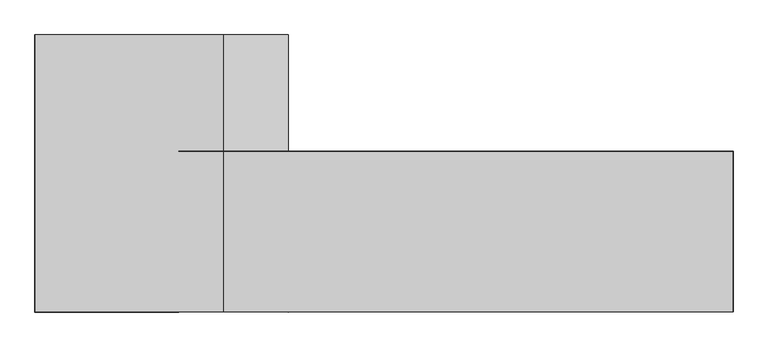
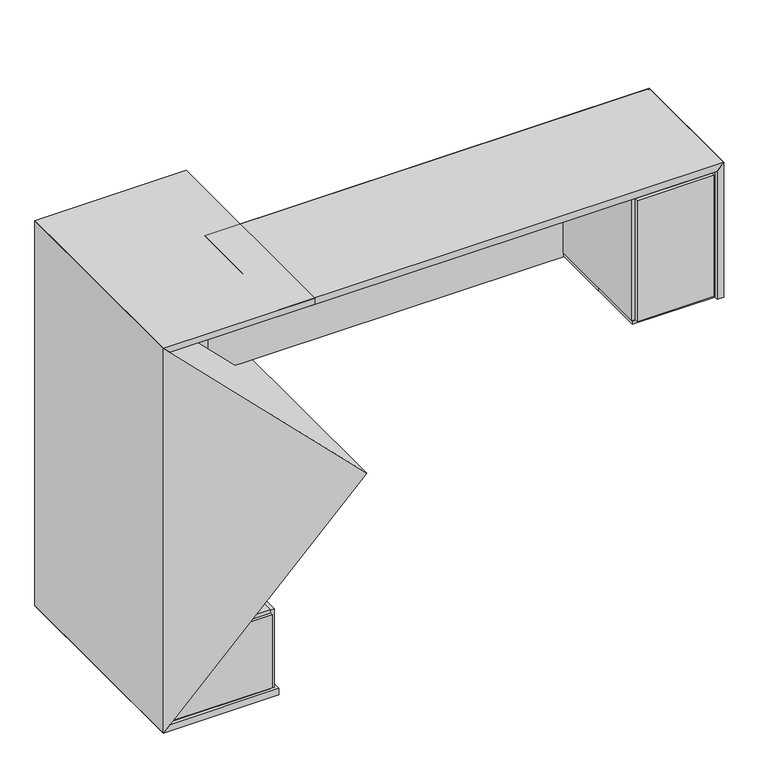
"""IFC4 building model written with IfcOpenShell, lengths in millimetres: proxy geometry, SALUTE^ADMIN 5A_100in DESK L SHAPED-PARTS SOLID."""

from ifc_helpers import new_model, si_unit, frame, origin, place, context, project, spatial, polyline, outline, extrude, faceted_brep, source, transform, mapped, element, save


def generic_models_883a1e68(model_context):
    return source(origin(), model_context, "Body", "SolidModel", [
        extrude(outline(polyline([(-34.925, 526.653125), (-34.925, 696.11875), (-15.875, 696.11875), (-15.875, 526.653125), (-34.925, 526.653125)])), frame((0.0, 0.0, -2245.51875), z_axis=(0.0, 0.0, 1.0), x_axis=(1.0, 0.0, 0.0)), (0.0, 0.0, 1.0), 471.4875),
        extrude(outline(polyline([(-622.3, 19.05), (-622.3, 698.5), (-38.1, 698.5), (-38.1, 19.05), (-622.3, 19.05)])), frame((0.0, 0.0, -2247.9), z_axis=(0.0, 0.0, 1.0), x_axis=(1.0, 0.0, 0.0)), (0.0, 0.0, 1.0), 19.05),
        extrude(outline(polyline([(-2286.0, -660.4), (-1123.95, 501.65), (38.1, -660.4), (-2286.0, -660.4)])), frame((0.0, 0.0, 0.0), z_axis=(0.0, 1.0, 0.0), x_axis=(0.0, 0.0, 1.0)), (0.0, 0.0, 1.0), 1270.0),
        extrude(outline(polyline([(-34.925, 354.80625), (-34.925, 524.271875), (-15.875, 524.271875), (-15.875, 354.80625), (-34.925, 354.80625)])), frame((0.0, 0.0, -2245.51875), z_axis=(0.0, 0.0, 1.0), x_axis=(1.0, 0.0, 0.0)), (0.0, 0.0, 1.0), 471.4875),
        extrude(outline(polyline([(2499.51875, 354.80625), (2028.03125, 354.80625), (2028.03125, 696.11875), (2499.51875, 696.11875), (2499.51875, 354.80625)])), frame((0.0, 0.0, -771.525), z_axis=(0.0, 0.0, 1.0), x_axis=(1.0, 0.0, 0.0)), (0.0, 0.0, 1.0), 19.05),
        faceted_brep([(2540.0, 736.6, -774.7), (2540.0, 736.6, 38.1), (2540.0, 0.0, 38.1), (2540.0, 0.0, -774.7), (2501.9, 698.5, 0.0), (2501.9, 0.0, 0.0), (2501.9, 698.5, -774.7), (2501.9, 0.0, -774.7)], [[[0, 1, 2, 3]], [[1, 4, 5, 2]], [[4, 6, 7, 5]], [[6, 0, 3, 7]], [[3, 2, 5, 7]], [[4, 1, 0, 6]]]),
        extrude(outline(polyline([(-622.3, 19.05), (-622.3, 698.5), (-38.1, 698.5), (-38.1, 19.05), (-622.3, 19.05)])), frame((0.0, 0.0, -1790.7), z_axis=(0.0, 0.0, 1.0), x_axis=(1.0, 0.0, 0.0)), (0.0, 0.0, 1.0), 19.05),
        extrude(outline(polyline([(-38.1, 38.1), (-38.1, 0.0), (-603.25, 0.0), (-603.25, 38.1), (-38.1, 38.1)])), frame((0.0, 0.0, -2228.85), z_axis=(0.0, 0.0, 1.0), x_axis=(1.0, 0.0, 0.0)), (0.0, 0.0, 1.0), 438.15),
        extrude(outline(polyline([(2482.85, 38.1), (2482.85, 0.0), (2044.7, 0.0), (2044.7, 38.1), (2482.85, 38.1)])), frame((0.0, 0.0, -749.3), z_axis=(0.0, 0.0, 1.0), x_axis=(1.0, 0.0, 0.0)), (0.0, 0.0, 1.0), 730.25),
        extrude(outline(polyline([(2482.85, 698.5), (2482.85, 19.05), (2044.7, 19.05), (2044.7, 698.5), (2482.85, 698.5)])), frame((0.0, 0.0, -19.05), z_axis=(0.0, 0.0, 1.0), x_axis=(1.0, 0.0, 0.0)), (0.0, 0.0, 1.0), 19.05),
        extrude(outline(polyline([(-34.925, 19.05), (-34.925, 352.425), (-15.875, 352.425), (-15.875, 19.05), (-34.925, 19.05)])), frame((0.0, 0.0, -2245.51875), z_axis=(0.0, 0.0, 1.0), x_axis=(1.0, 0.0, 0.0)), (0.0, 0.0, 1.0), 471.4875),
        extrude(outline(polyline([(-2247.9, 0.0), (-2247.9, -622.3), (-2286.0, -660.4), (-2286.0, 0.0), (-2247.9, 0.0)])), frame((0.0, 0.0, 0.0), z_axis=(0.0, 1.0, 0.0), x_axis=(0.0, 0.0, 1.0)), (0.0, 0.0, 1.0), 1270.0),
        faceted_brep([(0.0, 736.6, -774.7), (0.0, 736.6, 38.1), (2540.0, 736.6, 38.1), (2540.0, 736.6, -774.7), (2501.9, 698.5, -774.7), (2501.9, 698.5, 0.0), (0.0, 698.5, 0.0), (0.0, 698.5, -774.7)], [[[0, 1, 2, 3]], [[4, 5, 6, 7]], [[4, 3, 2, 5]], [[3, 4, 7, 0]], [[5, 2, 1, 6]], [[0, 7, 6, 1]]]),
        extrude(outline(polyline([(2499.51875, 19.05), (2028.03125, 19.05), (2028.03125, 352.425), (2499.51875, 352.425), (2499.51875, 19.05)])), frame((0.0, 0.0, -771.525), z_axis=(0.0, 0.0, 1.0), x_axis=(1.0, 0.0, 0.0)), (0.0, 0.0, 1.0), 19.05),
        extrude(outline(polyline([(2044.7, 698.5), (2044.7, 19.05), (2025.65, 19.05), (2025.65, 698.5), (2044.7, 698.5)])), frame((0.0, 0.0, -749.3), z_axis=(0.0, 0.0, 1.0), x_axis=(1.0, 0.0, 0.0)), (0.0, 0.0, 1.0), 749.3),
        extrude(outline(polyline([(2044.7, 698.5), (2482.85, 698.5), (2482.85, 679.45), (2044.7, 679.45), (2044.7, 698.5)])), frame((0.0, 0.0, -749.3), z_axis=(0.0, 0.0, 1.0), x_axis=(1.0, 0.0, 0.0)), (0.0, 0.0, 1.0), 730.25),
        extrude(outline(polyline([(38.1, -660.4), (0.0, -622.3), (0.0, 203.2), (38.1, 203.2), (38.1, -660.4)])), frame((0.0, 0.0, 0.0), z_axis=(0.0, 1.0, 0.0), x_axis=(0.0, 0.0, 1.0)), (0.0, 0.0, 1.0), 1270.0),
        extrude(outline(polyline([(-38.1, 698.5), (-38.1, 679.45), (-603.25, 679.45), (-603.25, 698.5), (-38.1, 698.5)])), frame((0.0, 0.0, -2228.85), z_axis=(0.0, 0.0, 1.0), x_axis=(1.0, 0.0, 0.0)), (0.0, 0.0, 1.0), 438.15),
        extrude(outline(polyline([(0.0, 736.6), (0.0, 698.5), (-622.3, 698.5), (-622.3, 736.6), (0.0, 736.6)])), frame((0.0, 0.0, -2247.9), z_axis=(0.0, 0.0, 1.0), x_axis=(1.0, 0.0, 0.0)), (0.0, 0.0, 1.0), 2247.9),
        faceted_brep([(2540.0, 736.6, 38.1), (2540.0, 0.0, 38.1), (2501.9, 0.0, 0.0), (2501.9, 698.5, 0.0), (0.0, 698.5, 0.0), (0.0, 736.6, 38.1), (0.0, 0.0, 0.0), (0.0, 0.0, 38.1)], [[[0, 1, 2, 3]], [[3, 4, 5, 0]], [[5, 4, 6, 7]], [[2, 1, 7, 6]], [[1, 0, 5, 7]], [[3, 2, 6, 4]]]),
        extrude(outline(polyline([(2501.9, 19.05), (2482.85, 19.05), (2482.85, 698.5), (2501.9, 698.5), (2501.9, 19.05)])), frame((0.0, 0.0, -749.3), z_axis=(0.0, 0.0, 1.0), x_axis=(1.0, 0.0, 0.0)), (0.0, 0.0, 1.0), 749.3),
    ])


if __name__ == "__main__":
    model = new_model("IFC4")
    model_context = context("Model", 3, world=origin())
    ifc_project = project(units=[si_unit("LENGTHUNIT", "METRE", prefix="MILLI")], contexts=[model_context])
    site = spatial("IfcSite", under=ifc_project)
    building = spatial("IfcBuilding", under=site)
    placement = place(None, origin())
    generic_models_shape = generic_models_883a1e68(model_context)
    element("IfcBuildingElementProxy", 1, Name="SALUTE^ADMIN 5A_100in DESK L SHAPED-PARTS SOLID", ObjectType="SALUTE^ADMIN 5A_100in DESK L SHAPED-PARTS SOLID", at=placement, inside=building, context=model_context, shape_type="MappedRepresentation", body=[
        mapped(generic_models_shape, transform((0.0, 0.0, 0.0), x_axis=(1.0, 0.0, 0.0), y_axis=(0.0, 1.0, 0.0), z_axis=(0.0, 0.0, 1.0))),
    ])
    save(model, "model.ifc")
